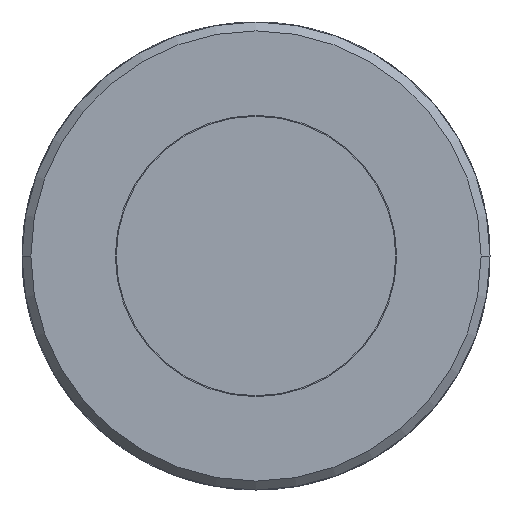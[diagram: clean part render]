
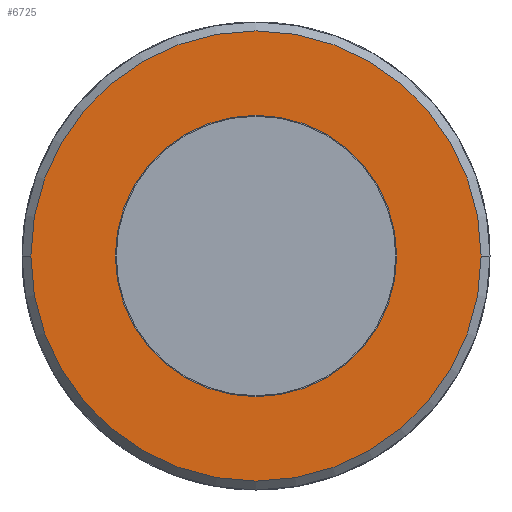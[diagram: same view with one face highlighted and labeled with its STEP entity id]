
A CAD part, front view. The second image highlights one B-rep face of the part: STEP entity #6725.
In plain terms, the highlighted planar face has unit normal (0, -1, 0) as drawn and (0, 1, 0) by its records, which use the part's own axes.
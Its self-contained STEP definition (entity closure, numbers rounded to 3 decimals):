
#3060=CARTESIAN_POINT('',(0.,26.75,0.));
#3061=DIRECTION('',(0.,1.,0.));
#3062=DIRECTION('',(1.,0.,0.));
#3063=AXIS2_PLACEMENT_3D('',#3060,#3061,#3062);
#3065=CARTESIAN_POINT('',(0.,26.75,0.));
#3066=DIRECTION('',(0.,1.,0.));
#3067=DIRECTION('',(-1.,0.,0.));
#3068=AXIS2_PLACEMENT_3D('',#3065,#3066,#3067);
#3070=CARTESIAN_POINT('',(0.,26.75,0.));
#3071=DIRECTION('',(0.,1.,0.));
#3072=DIRECTION('',(1.,0.,0.));
#3073=AXIS2_PLACEMENT_3D('',#3070,#3071,#3072);
#3075=CARTESIAN_POINT('',(0.,26.75,0.));
#3076=DIRECTION('',(0.,1.,0.));
#3077=DIRECTION('',(-1.,0.,0.));
#3078=AXIS2_PLACEMENT_3D('',#3075,#3076,#3077);
#3370=CARTESIAN_POINT('',(7.9,26.75,0.));
#3371=CARTESIAN_POINT('',(-7.9,26.75,0.));
#3372=VERTEX_POINT('',#3370);
#3373=VERTEX_POINT('',#3371);
#3404=CARTESIAN_POINT('',(12.64,26.75,0.));
#3405=CARTESIAN_POINT('',(-12.64,26.75,0.));
#3406=VERTEX_POINT('',#3404);
#3407=VERTEX_POINT('',#3405);
#6709=CARTESIAN_POINT('',(0.,26.75,0.));
#6710=DIRECTION('',(0.,1.,0.));
#6711=DIRECTION('',(1.,0.,0.));
#6712=AXIS2_PLACEMENT_3D('',#6709,#6710,#6711);
#6713=PLANE('',#6712);
#6715=ORIENTED_EDGE('',*,*,#6714,.F.);
#6717=ORIENTED_EDGE('',*,*,#6716,.F.);
#6718=EDGE_LOOP('',(#6715,#6717));
#6719=FACE_OUTER_BOUND('',#6718,.F.);
#6720=ORIENTED_EDGE('',*,*,#6699,.T.);
#6722=ORIENTED_EDGE('',*,*,#6721,.T.);
#6723=EDGE_LOOP('',(#6720,#6722));
#6724=FACE_BOUND('',#6723,.F.);
#6725=ADVANCED_FACE('',(#6719,#6724),#6713,.T.);
#3064=CIRCLE('',#3063,7.9);
#3069=CIRCLE('',#3068,7.9);
#3074=CIRCLE('',#3073,12.64);
#3079=CIRCLE('',#3078,12.64);
#6699=EDGE_CURVE('',#3372,#3373,#3064,.T.);
#6714=EDGE_CURVE('',#3406,#3407,#3074,.T.);
#6716=EDGE_CURVE('',#3407,#3406,#3079,.T.);
#6721=EDGE_CURVE('',#3373,#3372,#3069,.T.);
